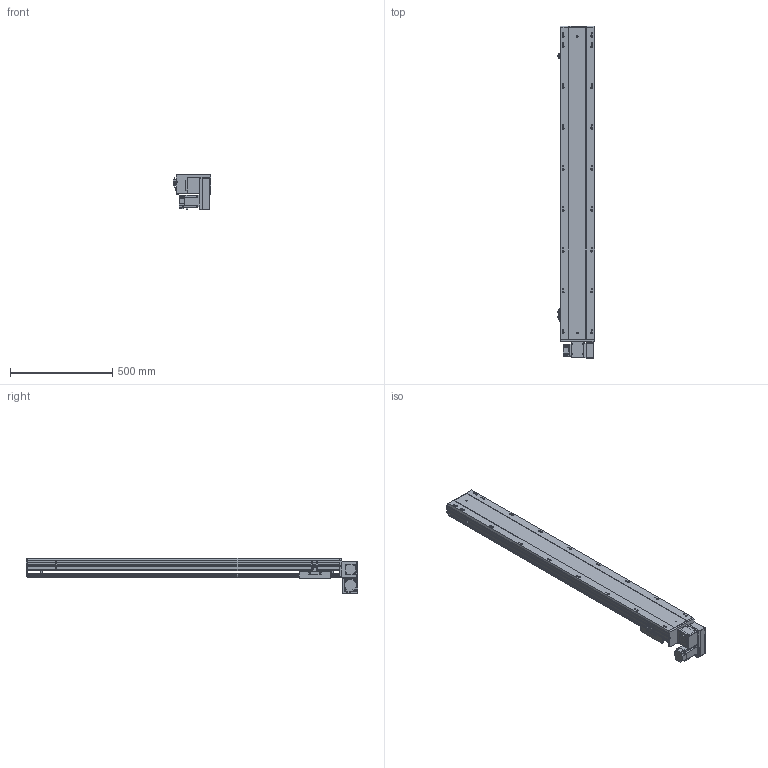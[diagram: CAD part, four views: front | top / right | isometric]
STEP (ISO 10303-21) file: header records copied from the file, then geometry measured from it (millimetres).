
FILE_DESCRIPTION (( 'STEP AP203' ), '1' );
FILE_NAME ('BTB17-L40-1250-LU-M40-C4.STEP', '2022-07-20T06:09:56', ( 'CXY' ), ( 'BT' ), 'SwSTEP 2.0', 'SolidWorks 2016', '' );
FILE_SCHEMA (( 'CONFIG_CONTROL_DESIGN' ));
Length unit declared in the file: millimetre
Products named in the file (11): BTB17-L-23; BTB17-L-04; BTB17-L40-1250-LU-M40-C4; BTB17-L-HZ; BTB17-L-菁釱_XD; BTB17-L-06; BTB17-L-01; BTB17-L-24; FS-08-T40; M40; FS-07-T40(1)
Assembly tree (13 placements, depth 2):
  BTB17-L40-1250-LU-M40-C4
    BTB17-L-菁釱_XD
    BTB17-L-01
    BTB17-L-04  x3
    BTB17-L-06
    BTB17-L-23  x2
    BTB17-L-24
    BTB17-L-HZ
    FS-07-T40(1)
    FS-08-T40
    M40
Bounding box: 183.7 x 1623.5 x 171.5 mm (x, y, z)
Volume: 13794637.6 mm3; surface area: 1860593 mm2
Topology: 22 solids, 22 shells, 1651 faces, 4339 edges, 2748 vertices
Faces by surface type: plane 911, cylinder 548, cone 160, torus 16, bspline 16
Entity records: 43030 total; most frequent: CARTESIAN_POINT 8422, DIRECTION 7053, ORIENTED_EDGE 6814, EDGE_CURVE 3407, AXIS2_PLACEMENT_3D 2401, LINE 2251, VECTOR 2251, VERTEX_POINT 2216
